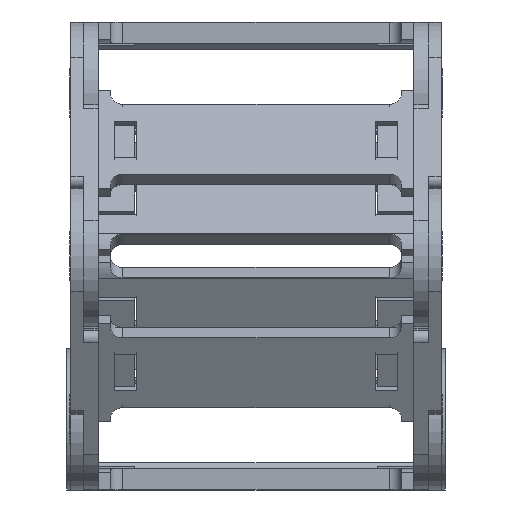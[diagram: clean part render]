
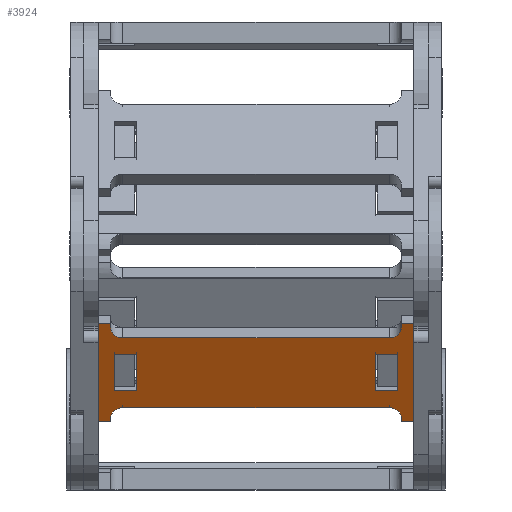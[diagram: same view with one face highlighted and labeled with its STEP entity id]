
A CAD part, left-side view. The second image highlights one B-rep face of the part: STEP entity #3924.
In plain terms, the highlighted planar face has unit normal (-0.866, 0, -0.5) as drawn and (0, -1, 0) by its records, which use the part's own axes.
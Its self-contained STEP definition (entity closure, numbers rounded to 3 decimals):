
#3023=DIRECTION('',(0.,0.,1.));
#3024=VECTOR('',#3023,10.3);
#3025=CARTESIAN_POINT('',(49.,0.,-5.15));
#3026=LINE('',#3025,#3024);
#3048=DIRECTION('',(0.,0.,1.));
#3049=VECTOR('',#3048,28.);
#3050=CARTESIAN_POINT('',(58.5,0.,-14.));
#3051=LINE('',#3050,#3049);
#3101=DIRECTION('',(-1.,0.,0.));
#3102=VECTOR('',#3101,5.5);
#3103=CARTESIAN_POINT('',(54.5,0.,-5.15));
#3104=LINE('',#3103,#3102);
#3125=DIRECTION('',(1.,0.,0.));
#3126=VECTOR('',#3125,5.5);
#3127=CARTESIAN_POINT('',(49.,0.,5.15));
#3128=LINE('',#3127,#3126);
#3133=DIRECTION('',(0.,0.,-1.));
#3134=VECTOR('',#3133,10.3);
#3135=CARTESIAN_POINT('',(-15.5,0.,5.15));
#3136=LINE('',#3135,#3134);
#3137=DIRECTION('',(0.,0.,1.));
#3138=VECTOR('',#3137,10.3);
#3139=CARTESIAN_POINT('',(54.5,0.,-5.15));
#3140=LINE('',#3139,#3138);
#3141=CARTESIAN_POINT('',(52.5,0.,13.));
#3142=DIRECTION('',(0.,-1.,0.));
#3143=DIRECTION('',(0.,0.,-1.));
#3144=AXIS2_PLACEMENT_3D('',#3141,#3142,#3143);
#3146=CARTESIAN_POINT('',(52.5,0.,-13.));
#3147=DIRECTION('',(0.,-1.,0.));
#3148=DIRECTION('',(1.,0.,0.));
#3149=AXIS2_PLACEMENT_3D('',#3146,#3147,#3148);
#3171=DIRECTION('',(1.,0.,0.));
#3172=VECTOR('',#3171,5.5);
#3173=CARTESIAN_POINT('',(-15.5,0.,5.15));
#3174=LINE('',#3173,#3172);
#3191=DIRECTION('',(0.,0.,-1.));
#3192=VECTOR('',#3191,10.3);
#3193=CARTESIAN_POINT('',(-10.,0.,5.15));
#3194=LINE('',#3193,#3192);
#3224=DIRECTION('',(0.,0.,-1.));
#3225=VECTOR('',#3224,28.);
#3226=CARTESIAN_POINT('',(-19.5,0.,14.));
#3227=LINE('',#3226,#3225);
#3277=DIRECTION('',(-1.,0.,0.));
#3278=VECTOR('',#3277,66.);
#3279=CARTESIAN_POINT('',(52.5,0.,10.));
#3280=LINE('',#3279,#3278);
#3281=CARTESIAN_POINT('',(-13.5,0.,13.));
#3282=DIRECTION('',(0.,1.,0.));
#3283=DIRECTION('',(0.,0.,-1.));
#3284=AXIS2_PLACEMENT_3D('',#3281,#3282,#3283);
#3311=DIRECTION('',(0.,0.,1.));
#3312=VECTOR('',#3311,1.);
#3313=CARTESIAN_POINT('',(-16.5,0.,13.));
#3314=LINE('',#3313,#3312);
#3324=DIRECTION('',(-1.,0.,0.));
#3325=VECTOR('',#3324,3.);
#3326=CARTESIAN_POINT('',(-16.5,0.,14.));
#3327=LINE('',#3326,#3325);
#3366=DIRECTION('',(0.,0.,-1.));
#3367=VECTOR('',#3366,1.);
#3368=CARTESIAN_POINT('',(55.5,0.,14.));
#3369=LINE('',#3368,#3367);
#3370=DIRECTION('',(-1.,0.,0.));
#3371=VECTOR('',#3370,3.);
#3372=CARTESIAN_POINT('',(58.5,0.,14.));
#3373=LINE('',#3372,#3371);
#3378=DIRECTION('',(1.,0.,0.));
#3379=VECTOR('',#3378,3.);
#3380=CARTESIAN_POINT('',(-19.5,0.,-14.));
#3381=LINE('',#3380,#3379);
#3407=DIRECTION('',(0.,0.,1.));
#3408=VECTOR('',#3407,1.);
#3409=CARTESIAN_POINT('',(-16.5,0.,-14.));
#3410=LINE('',#3409,#3408);
#3432=CARTESIAN_POINT('',(-13.5,0.,-13.));
#3433=DIRECTION('',(0.,1.,0.));
#3434=DIRECTION('',(-1.,0.,0.));
#3435=AXIS2_PLACEMENT_3D('',#3432,#3433,#3434);
#3441=DIRECTION('',(1.,0.,0.));
#3442=VECTOR('',#3441,66.);
#3443=CARTESIAN_POINT('',(-13.5,0.,-10.));
#3444=LINE('',#3443,#3442);
#3483=DIRECTION('',(0.,0.,-1.));
#3484=VECTOR('',#3483,1.);
#3485=CARTESIAN_POINT('',(55.5,0.,-13.));
#3486=LINE('',#3485,#3484);
#3491=DIRECTION('',(1.,0.,0.));
#3492=VECTOR('',#3491,3.);
#3493=CARTESIAN_POINT('',(55.5,0.,-14.));
#3494=LINE('',#3493,#3492);
#3511=DIRECTION('',(-1.,0.,0.));
#3512=VECTOR('',#3511,5.5);
#3513=CARTESIAN_POINT('',(-10.,0.,-5.15));
#3514=LINE('',#3513,#3512);
#3580=CARTESIAN_POINT('',(58.5,0.,-14.));
#3581=VERTEX_POINT('',#3580);
#3582=CARTESIAN_POINT('',(58.5,0.,14.));
#3583=VERTEX_POINT('',#3582);
#3587=CARTESIAN_POINT('',(49.,0.,-5.15));
#3589=VERTEX_POINT('',#3587);
#3590=CARTESIAN_POINT('',(49.,0.,5.15));
#3591=VERTEX_POINT('',#3590);
#3598=CARTESIAN_POINT('',(54.5,0.,-5.15));
#3599=VERTEX_POINT('',#3598);
#3602=CARTESIAN_POINT('',(54.5,0.,5.15));
#3603=VERTEX_POINT('',#3602);
#3604=CARTESIAN_POINT('',(52.5,0.,10.));
#3605=CARTESIAN_POINT('',(55.5,0.,13.));
#3606=VERTEX_POINT('',#3604);
#3607=VERTEX_POINT('',#3605);
#3608=CARTESIAN_POINT('',(55.5,0.,14.));
#3609=VERTEX_POINT('',#3608);
#3610=CARTESIAN_POINT('',(55.5,0.,-14.));
#3611=VERTEX_POINT('',#3610);
#3612=CARTESIAN_POINT('',(55.5,0.,-13.));
#3613=VERTEX_POINT('',#3612);
#3614=CARTESIAN_POINT('',(52.5,0.,-10.));
#3615=VERTEX_POINT('',#3614);
#3637=CARTESIAN_POINT('',(-19.5,0.,-14.));
#3638=CARTESIAN_POINT('',(-16.5,0.,-14.));
#3639=VERTEX_POINT('',#3637);
#3640=VERTEX_POINT('',#3638);
#3641=CARTESIAN_POINT('',(-19.5,0.,14.));
#3642=VERTEX_POINT('',#3641);
#3643=CARTESIAN_POINT('',(-16.5,0.,14.));
#3644=VERTEX_POINT('',#3643);
#3645=CARTESIAN_POINT('',(-15.5,0.,5.15));
#3646=CARTESIAN_POINT('',(-15.5,0.,-5.15));
#3647=VERTEX_POINT('',#3645);
#3648=VERTEX_POINT('',#3646);
#3649=CARTESIAN_POINT('',(-10.,0.,-5.15));
#3650=VERTEX_POINT('',#3649);
#3651=CARTESIAN_POINT('',(-10.,0.,5.15));
#3652=VERTEX_POINT('',#3651);
#3665=CARTESIAN_POINT('',(-13.5,0.,-10.));
#3667=VERTEX_POINT('',#3665);
#3669=CARTESIAN_POINT('',(-16.5,0.,-13.));
#3671=VERTEX_POINT('',#3669);
#3674=CARTESIAN_POINT('',(-13.5,0.,10.));
#3676=VERTEX_POINT('',#3674);
#3678=CARTESIAN_POINT('',(-16.5,0.,13.));
#3680=VERTEX_POINT('',#3678);
#3870=CARTESIAN_POINT('',(39.,0.,0.));
#3871=DIRECTION('',(0.,1.,0.));
#3872=DIRECTION('',(1.,0.,0.));
#3873=AXIS2_PLACEMENT_3D('',#3870,#3871,#3872);
#3874=PLANE('',#3873);
#3876=ORIENTED_EDGE('',*,*,#3875,.F.);
#3878=ORIENTED_EDGE('',*,*,#3877,.F.);
#3880=ORIENTED_EDGE('',*,*,#3879,.F.);
#3882=ORIENTED_EDGE('',*,*,#3881,.T.);
#3884=ORIENTED_EDGE('',*,*,#3883,.F.);
#3886=ORIENTED_EDGE('',*,*,#3885,.F.);
#3887=ORIENTED_EDGE('',*,*,#3762,.F.);
#3889=ORIENTED_EDGE('',*,*,#3888,.F.);
#3891=ORIENTED_EDGE('',*,*,#3890,.F.);
#3893=ORIENTED_EDGE('',*,*,#3892,.T.);
#3895=ORIENTED_EDGE('',*,*,#3894,.F.);
#3897=ORIENTED_EDGE('',*,*,#3896,.F.);
#3899=ORIENTED_EDGE('',*,*,#3898,.F.);
#3901=ORIENTED_EDGE('',*,*,#3900,.F.);
#3903=ORIENTED_EDGE('',*,*,#3902,.F.);
#3905=ORIENTED_EDGE('',*,*,#3904,.F.);
#3906=EDGE_LOOP('',(#3876,#3878,#3880,#3882,#3884,#3886,#3887,#3889,#3891,#3893,
#3895,#3897,#3899,#3901,#3903,#3905));
#3907=FACE_OUTER_BOUND('',#3906,.F.);
#3908=ORIENTED_EDGE('',*,*,#3848,.T.);
#3909=ORIENTED_EDGE('',*,*,#3860,.F.);
#3910=ORIENTED_EDGE('',*,*,#3727,.F.);
#3911=ORIENTED_EDGE('',*,*,#3818,.F.);
#3912=EDGE_LOOP('',(#3908,#3909,#3910,#3911));
#3913=FACE_BOUND('',#3912,.F.);
#3915=ORIENTED_EDGE('',*,*,#3914,.T.);
#3917=ORIENTED_EDGE('',*,*,#3916,.F.);
#3919=ORIENTED_EDGE('',*,*,#3918,.F.);
#3921=ORIENTED_EDGE('',*,*,#3920,.F.);
#3922=EDGE_LOOP('',(#3915,#3917,#3919,#3921));
#3923=FACE_BOUND('',#3922,.F.);
#3924=ADVANCED_FACE('',(#3907,#3913,#3923),#3874,.F.);
#3145=CIRCLE('',#3144,3.);
#3150=CIRCLE('',#3149,3.);
#3285=CIRCLE('',#3284,3.);
#3436=CIRCLE('',#3435,3.);
#3727=EDGE_CURVE('',#3589,#3591,#3026,.T.);
#3762=EDGE_CURVE('',#3581,#3583,#3051,.T.);
#3818=EDGE_CURVE('',#3599,#3589,#3104,.T.);
#3848=EDGE_CURVE('',#3599,#3603,#3140,.T.);
#3860=EDGE_CURVE('',#3591,#3603,#3128,.T.);
#3875=EDGE_CURVE('',#3680,#3644,#3314,.T.);
#3877=EDGE_CURVE('',#3676,#3680,#3285,.T.);
#3879=EDGE_CURVE('',#3606,#3676,#3280,.T.);
#3881=EDGE_CURVE('',#3606,#3607,#3145,.T.);
#3883=EDGE_CURVE('',#3609,#3607,#3369,.T.);
#3885=EDGE_CURVE('',#3583,#3609,#3373,.T.);
#3888=EDGE_CURVE('',#3611,#3581,#3494,.T.);
#3890=EDGE_CURVE('',#3613,#3611,#3486,.T.);
#3892=EDGE_CURVE('',#3613,#3615,#3150,.T.);
#3894=EDGE_CURVE('',#3667,#3615,#3444,.T.);
#3896=EDGE_CURVE('',#3671,#3667,#3436,.T.);
#3898=EDGE_CURVE('',#3640,#3671,#3410,.T.);
#3900=EDGE_CURVE('',#3639,#3640,#3381,.T.);
#3902=EDGE_CURVE('',#3642,#3639,#3227,.T.);
#3904=EDGE_CURVE('',#3644,#3642,#3327,.T.);
#3914=EDGE_CURVE('',#3647,#3648,#3136,.T.);
#3916=EDGE_CURVE('',#3650,#3648,#3514,.T.);
#3918=EDGE_CURVE('',#3652,#3650,#3194,.T.);
#3920=EDGE_CURVE('',#3647,#3652,#3174,.T.);
